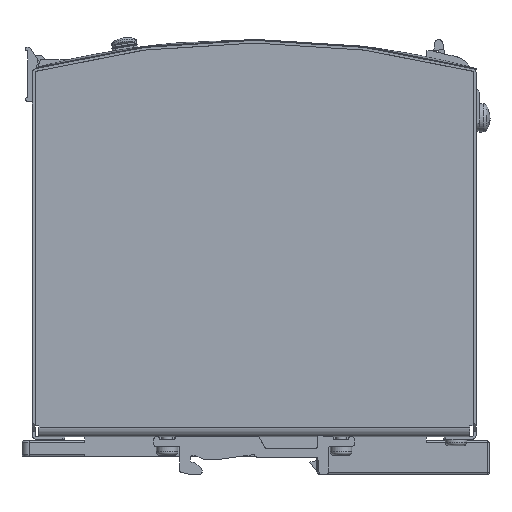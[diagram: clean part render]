
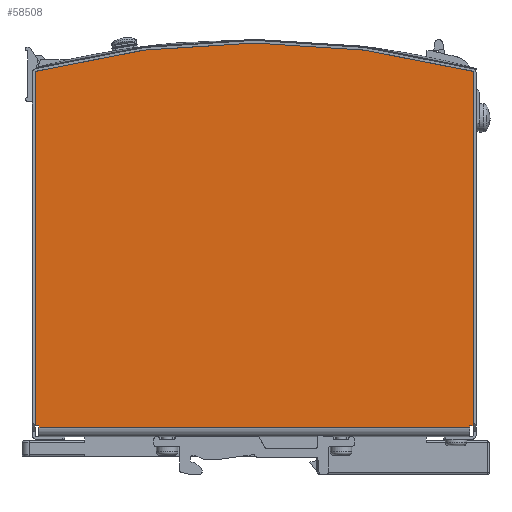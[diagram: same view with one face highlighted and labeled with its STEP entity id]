
A CAD part, front view. The second image highlights one B-rep face of the part: STEP entity #58508.
In plain terms, the highlighted planar face has unit normal (0, -1, 0).
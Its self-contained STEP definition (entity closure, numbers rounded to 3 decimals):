
#1844=CIRCLE('',#61444,240.);
#6624=LINE('',#160974,#12764);
#6634=LINE('',#161004,#12774);
#6664=LINE('',#161067,#12804);
#6665=LINE('',#161069,#12805);
#6668=LINE('',#161079,#12808);
#6669=LINE('',#161083,#12809);
#6670=LINE('',#161084,#12810);
#12764=VECTOR('',#70694,0.5);
#12774=VECTOR('',#70722,0.5);
#12804=VECTOR('',#70778,1.);
#12805=VECTOR('',#70781,120.3);
#12808=VECTOR('',#70792,99.079);
#12809=VECTOR('',#70795,99.079);
#12810=VECTOR('',#70796,1.);
#16145=PLANE('',#61443);
#18633=FACE_OUTER_BOUND('',#22298,.T.);
#22298=EDGE_LOOP('',(#49518,#49519,#49520,#49521,#49522,#49523,#49524,#49525));
#28471=VERTEX_POINT('',#160971);
#28472=VERTEX_POINT('',#160973);
#28481=VERTEX_POINT('',#161000);
#28483=VERTEX_POINT('',#161003);
#28503=VERTEX_POINT('',#161065);
#28506=VERTEX_POINT('',#161078);
#28507=VERTEX_POINT('',#161080);
#28508=VERTEX_POINT('',#161082);
#35823=EDGE_CURVE('',#28471,#28472,#6624,.T.);
#35838=EDGE_CURVE('',#28481,#28483,#6634,.T.);
#35874=EDGE_CURVE('',#28503,#28471,#6664,.T.);
#35875=EDGE_CURVE('',#28472,#28481,#6665,.T.);
#35880=EDGE_CURVE('',#28503,#28506,#6668,.T.);
#35881=EDGE_CURVE('',#28507,#28506,#1844,.T.);
#35882=EDGE_CURVE('',#28507,#28508,#6669,.T.);
#35883=EDGE_CURVE('',#28508,#28483,#6670,.T.);
#49518=ORIENTED_EDGE('',*,*,#35874,.F.);
#49519=ORIENTED_EDGE('',*,*,#35880,.T.);
#49520=ORIENTED_EDGE('',*,*,#35881,.F.);
#49521=ORIENTED_EDGE('',*,*,#35882,.T.);
#49522=ORIENTED_EDGE('',*,*,#35883,.T.);
#49523=ORIENTED_EDGE('',*,*,#35838,.F.);
#49524=ORIENTED_EDGE('',*,*,#35875,.F.);
#49525=ORIENTED_EDGE('',*,*,#35823,.F.);
#58508=ADVANCED_FACE('',(#18633),#16145,.F.);
#61443=AXIS2_PLACEMENT_3D('',#161077,#70790,#70791);
#61444=AXIS2_PLACEMENT_3D('',#161081,#70793,#70794);
#70694=DIRECTION('',(0.,0.,-1.));
#70722=DIRECTION('',(0.,0.,1.));
#70778=DIRECTION('',(-1.,0.,0.));
#70781=DIRECTION('',(-1.,0.,0.));
#70790=DIRECTION('center_axis',(0.,1.,0.));
#70791=DIRECTION('ref_axis',(0.,0.,1.));
#70792=DIRECTION('',(0.,0.,1.));
#70793=DIRECTION('center_axis',(0.,1.,0.));
#70794=DIRECTION('ref_axis',(0.,0.,-1.));
#70795=DIRECTION('',(0.,0.,-1.));
#70796=DIRECTION('',(1.,0.,0.));
#160971=CARTESIAN_POINT('',(60.15,-20.,3.));
#160973=CARTESIAN_POINT('',(60.15,-20.,2.5));
#160974=CARTESIAN_POINT('',(60.15,-20.,3.));
#161000=CARTESIAN_POINT('',(-60.15,-20.,2.5));
#161003=CARTESIAN_POINT('',(-60.15,-20.,3.));
#161004=CARTESIAN_POINT('',(-60.15,-20.,2.5));
#161065=CARTESIAN_POINT('',(61.15,-20.,3.));
#161067=CARTESIAN_POINT('',(61.15,-20.,3.));
#161069=CARTESIAN_POINT('',(60.15,-20.,2.5));
#161077=CARTESIAN_POINT('Origin',(61.15,-20.,1.5));
#161078=CARTESIAN_POINT('',(61.15,-20.,102.079));
#161079=CARTESIAN_POINT('',(61.15,-20.,3.));
#161080=CARTESIAN_POINT('',(-61.15,-20.,102.079));
#161081=CARTESIAN_POINT('Origin',(0.,-20.,-130.));
#161082=CARTESIAN_POINT('',(-61.15,-20.,3.));
#161083=CARTESIAN_POINT('',(-61.15,-20.,102.079));
#161084=CARTESIAN_POINT('',(-61.15,-20.,3.));
